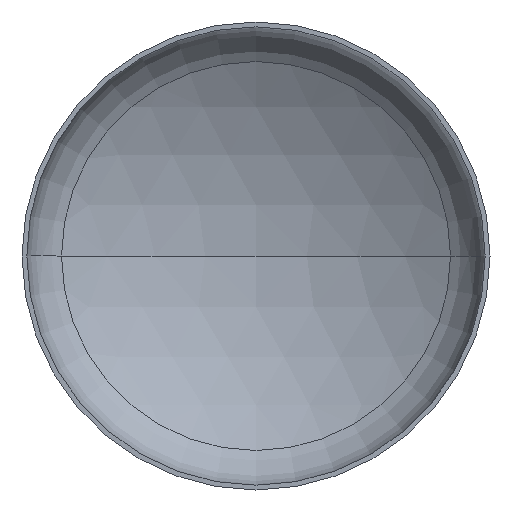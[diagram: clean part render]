
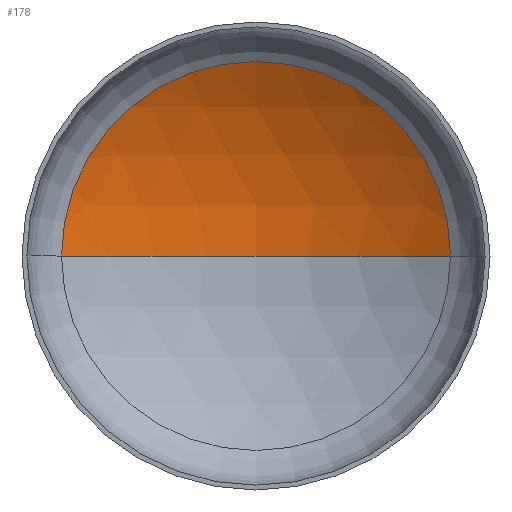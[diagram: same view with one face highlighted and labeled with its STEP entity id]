
A CAD part, front view. The second image highlights one B-rep face of the part: STEP entity #178.
In plain terms, the highlighted spherical face has radius 4800 mm.
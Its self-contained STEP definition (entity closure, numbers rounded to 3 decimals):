
#6 = DIRECTION ( 'NONE',  ( -1., 0., 0. ) ) ;
#11 = VERTEX_POINT ( 'NONE', #261 ) ;
#41 = ORIENTED_EDGE ( 'NONE', *, *, #176, .F. ) ;
#75 = AXIS2_PLACEMENT_3D ( 'NONE', #351, #194, #6 ) ;
#84 = AXIS2_PLACEMENT_3D ( 'NONE', #396, #336, #357 ) ;
#85 = AXIS2_PLACEMENT_3D ( 'NONE', #180, #182, #401 ) ;
#89 = AXIS2_PLACEMENT_3D ( 'NONE', #211, #195, #193 ) ;
#91 = VERTEX_POINT ( 'NONE', #236 ) ;
#140 = VERTEX_POINT ( 'NONE', #214 ) ;
#150 = ORIENTED_EDGE ( 'NONE', *, *, #173, .T. ) ;
#173 = EDGE_CURVE ( 'NONE', #11, #140, #329, .T. ) ;
#174 = EDGE_CURVE ( 'NONE', #91, #11, #265, .T. ) ;
#176 = EDGE_CURVE ( 'NONE', #91, #140, #209, .T. ) ;
#178 = ADVANCED_FACE ( 'NONE', ( #390 ), #382, .F. ) ;
#180 = CARTESIAN_POINT ( 'NONE',  ( 0., -3191.111, 0. ) ) ;
#182 = DIRECTION ( 'NONE',  ( 0., 0., -1. ) ) ;
#193 = DIRECTION ( 'NONE',  ( 1., 0., 0. ) ) ;
#194 = DIRECTION ( 'NONE',  ( 0., 0., -1. ) ) ;
#195 = DIRECTION ( 'NONE',  ( 0., -1., 0. ) ) ;
#209 = CIRCLE ( 'NONE', #84, 4800. ) ;
#211 = CARTESIAN_POINT ( 'NONE',  ( 0., 910.394, 0. ) ) ;
#214 = CARTESIAN_POINT ( 'NONE',  ( -2493.523, 910.394, 0. ) ) ;
#236 = CARTESIAN_POINT ( 'NONE',  ( 0., 1608.889, 0. ) ) ;
#256 = EDGE_LOOP ( 'NONE', ( #41, #408, #150 ) ) ;
#261 = CARTESIAN_POINT ( 'NONE',  ( 2493.523, 910.394, 0. ) ) ;
#265 = CIRCLE ( 'NONE', #85, 4800. ) ;
#329 = CIRCLE ( 'NONE', #89, 2493.523 ) ;
#336 = DIRECTION ( 'NONE',  ( 0., 0., 1. ) ) ;
#351 = CARTESIAN_POINT ( 'NONE',  ( 0., -3191.111, 0. ) ) ;
#357 = DIRECTION ( 'NONE',  ( 1., 0., 0. ) ) ;
#382 = SPHERICAL_SURFACE ( 'NONE', #75, 4800. ) ;
#390 = FACE_OUTER_BOUND ( 'NONE', #256, .T. ) ;
#396 = CARTESIAN_POINT ( 'NONE',  ( 0., -3191.111, 0. ) ) ;
#401 = DIRECTION ( 'NONE',  ( -1., 0., 0. ) ) ;
#408 = ORIENTED_EDGE ( 'NONE', *, *, #174, .T. ) ;
